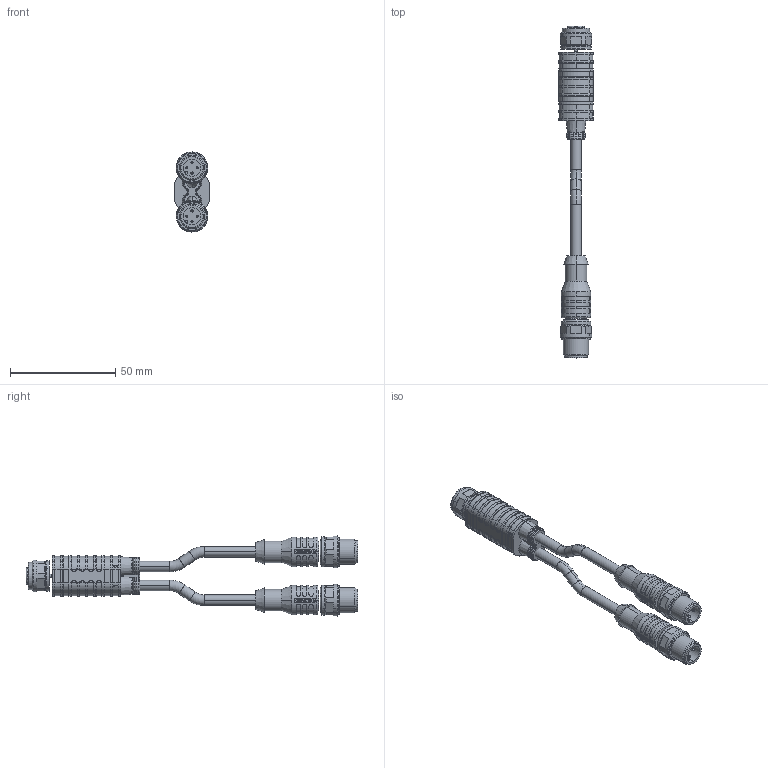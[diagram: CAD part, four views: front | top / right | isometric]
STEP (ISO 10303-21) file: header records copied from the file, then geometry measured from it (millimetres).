
FILE_DESCRIPTION (( 'STEP AP203' ), '1' );
FILE_NAME ('VBRK4.4-2RSC4T-L1_L2_.STEP', '2017-07-26T02:41:52', ( 'User' ), ( '' ), 'SwSTEP 2.0', 'SolidWorks 2016', '' );
FILE_SCHEMA (( 'CONFIG_CONTROL_DESIGN' ));
Length unit declared in the file: millimetre
Products named in the file (1): VBRK4.4-2RSC4T-L1_L2_
Bounding box: 16.5 x 157.61 x 38 mm (x, y, z)
Surface area: 12680.7 mm2 (no closed solid volume)
Topology: 0 solids, 28 shells, 1038 faces, 3200 edges, 2128 vertices
Faces by surface type: cylinder 371, plane 332, torus 189, bspline 74, cone 72
Entity records: 40311 total; most frequent: CARTESIAN_POINT 12253, DIRECTION 5915, ORIENTED_EDGE 5595, EDGE_CURVE 3200, AXIS2_PLACEMENT_3D 2285, VERTEX_POINT 2128, LINE 1345, VECTOR 1345
